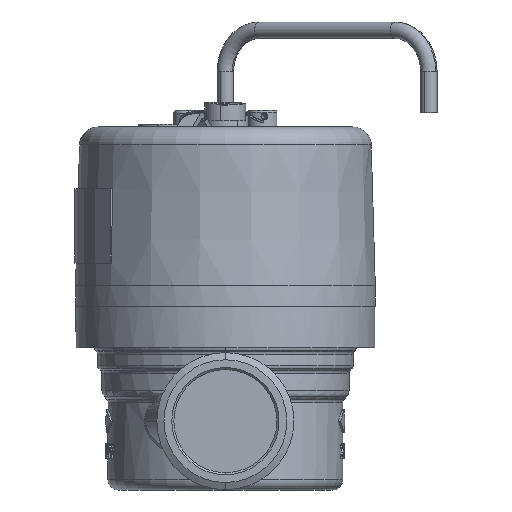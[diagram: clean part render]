
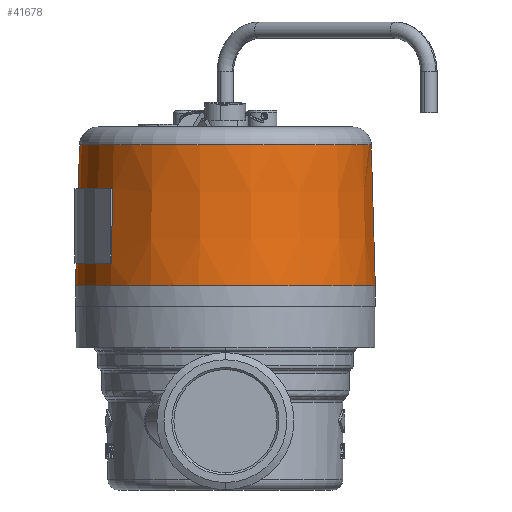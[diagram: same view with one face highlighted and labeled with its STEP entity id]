
A CAD part, left-side view. The second image highlights one B-rep face of the part: STEP entity #41678.
In plain terms, the highlighted conical face has half-angle 1.637 degrees and reference radius 36.35 mm.
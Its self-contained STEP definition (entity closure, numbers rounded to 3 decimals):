
#955 = EDGE_CURVE ( 'NONE', #18413, #52519, #67536, .T. ) ;
#1970 = DIRECTION ( 'NONE',  ( 0., 0.029, -1. ) ) ;
#3511 = VERTEX_POINT ( 'NONE', #70706 ) ;
#3924 = EDGE_CURVE ( 'NONE', #3511, #30460, #52470, .T. ) ;
#4159 = CARTESIAN_POINT ( 'NONE',  ( 0., 0., 32.871 ) ) ;
#4647 = CARTESIAN_POINT ( 'NONE',  ( 0., -36.35, 32.871 ) ) ;
#5201 = CARTESIAN_POINT ( 'NONE',  ( 0., 36.35, 32.871 ) ) ;
#6108 = ORIENTED_EDGE ( 'NONE', *, *, #70660, .T. ) ;
#8324 = CARTESIAN_POINT ( 'NONE',  ( 0., 0., 56.35 ) ) ;
#9046 = VECTOR ( 'NONE', #24745, 1000. ) ;
#9204 = DIRECTION ( 'NONE',  ( 0., 0., 1. ) ) ;
#9649 = DIRECTION ( 'NONE',  ( 0., -1., 0. ) ) ;
#10353 = ORIENTED_EDGE ( 'NONE', *, *, #955, .F. ) ;
#10826 = VECTOR ( 'NONE', #1970, 1000. ) ;
#15528 = DIRECTION ( 'NONE',  ( 0., 0., -1. ) ) ;
#16861 = EDGE_CURVE ( 'NONE', #41445, #24312, #33580, .T. ) ;
#16920 = AXIS2_PLACEMENT_3D ( 'NONE', #4159, #53587, #26470 ) ;
#18413 = VERTEX_POINT ( 'NONE', #68589 ) ;
#19682 = CARTESIAN_POINT ( 'NONE',  ( 0., 0., 38.35 ) ) ;
#19891 = AXIS2_PLACEMENT_3D ( 'NONE', #31224, #46813, #9649 ) ;
#20551 = CARTESIAN_POINT ( 'NONE',  ( -22.971, 27.3, 56.35 ) ) ;
#20575 = CARTESIAN_POINT ( 'NONE',  ( 0., 0., 66.979 ) ) ;
#23648 = CARTESIAN_POINT ( 'NONE',  ( 0., 36.35, 32.871 ) ) ;
#23706 = CIRCLE ( 'NONE', #42139, 35.679 ) ;
#24195 = DIRECTION ( 'NONE',  ( 0., 0., 1. ) ) ;
#24312 = VERTEX_POINT ( 'NONE', #68476 ) ;
#24745 = DIRECTION ( 'NONE',  ( 0., 0.029, -1. ) ) ;
#25436 = ORIENTED_EDGE ( 'NONE', *, *, #16861, .T. ) ;
#26470 = DIRECTION ( 'NONE',  ( 0., -1., 0. ) ) ;
#26596 = EDGE_CURVE ( 'NONE', #63943, #41445, #23706, .T. ) ;
#26986 = EDGE_LOOP ( 'NONE', ( #6108, #54782, #41131, #25436, #32834, #60930, #40486, #10353 ) ) ;
#27118 = AXIS2_PLACEMENT_3D ( 'NONE', #20575, #15528, #65656 ) ;
#30460 = VERTEX_POINT ( 'NONE', #5201 ) ;
#31224 = CARTESIAN_POINT ( 'NONE',  ( 0., 0., 32.871 ) ) ;
#31412 = CARTESIAN_POINT ( 'NONE',  ( 0., 35.375, 66.979 ) ) ;
#32834 = ORIENTED_EDGE ( 'NONE', *, *, #36467, .F. ) ;
#33580 = LINE ( 'NONE', #56044, #53250 ) ;
#34995 = CARTESIAN_POINT ( 'NONE',  ( 0., -36.35, 32.871 ) ) ;
#35112 = CARTESIAN_POINT ( 'NONE',  ( 0., 36.35, 32.871 ) ) ;
#36249 = DIRECTION ( 'NONE',  ( -1., 0., 0. ) ) ;
#36467 = EDGE_CURVE ( 'NONE', #3511, #24312, #66226, .T. ) ;
#38023 = VECTOR ( 'NONE', #51297, 1000. ) ;
#38308 = CONICAL_SURFACE ( 'NONE', #19891, 36.35, 0.029 ) ;
#40486 = ORIENTED_EDGE ( 'NONE', *, *, #62400, .F. ) ;
#41131 = ORIENTED_EDGE ( 'NONE', *, *, #26596, .T. ) ;
#41445 = VERTEX_POINT ( 'NONE', #20551 ) ;
#41678 = ADVANCED_FACE ( 'NONE', ( #42445 ), #38308, .T. ) ;
#42139 = AXIS2_PLACEMENT_3D ( 'NONE', #8324, #24195, #52350 ) ;
#42445 = FACE_OUTER_BOUND ( 'NONE', #26986, .T. ) ;
#44576 = CIRCLE ( 'NONE', #16920, 36.35 ) ;
#46813 = DIRECTION ( 'NONE',  ( 0., 0., -1. ) ) ;
#48988 = AXIS2_PLACEMENT_3D ( 'NONE', #19682, #9204, #36249 ) ;
#51297 = DIRECTION ( 'NONE',  ( 0., -0.029, -1. ) ) ;
#51371 = CIRCLE ( 'NONE', #27118, 35.375 ) ;
#52350 = DIRECTION ( 'NONE',  ( -1., 0., 0. ) ) ;
#52470 = LINE ( 'NONE', #35112, #10826 ) ;
#52519 = VERTEX_POINT ( 'NONE', #4647 ) ;
#53250 = VECTOR ( 'NONE', #66128, 1000. ) ;
#53587 = DIRECTION ( 'NONE',  ( 0., 0., -1. ) ) ;
#54782 = ORIENTED_EDGE ( 'NONE', *, *, #63098, .T. ) ;
#56044 = CARTESIAN_POINT ( 'NONE',  ( 0., 0., 1304.413 ) ) ;
#57579 = LINE ( 'NONE', #23648, #9046 ) ;
#60930 = ORIENTED_EDGE ( 'NONE', *, *, #3924, .T. ) ;
#62400 = EDGE_CURVE ( 'NONE', #52519, #30460, #44576, .T. ) ;
#63098 = EDGE_CURVE ( 'NONE', #69676, #63943, #57579, .T. ) ;
#63210 = CARTESIAN_POINT ( 'NONE',  ( 0., 35.679, 56.35 ) ) ;
#63943 = VERTEX_POINT ( 'NONE', #63210 ) ;
#65656 = DIRECTION ( 'NONE',  ( 0., -1., 0. ) ) ;
#66128 = DIRECTION ( 'NONE',  ( -0.018, 0.022, -1. ) ) ;
#66226 = CIRCLE ( 'NONE', #48988, 36.193 ) ;
#67536 = LINE ( 'NONE', #34995, #38023 ) ;
#68476 = CARTESIAN_POINT ( 'NONE',  ( -23.303, 27.694, 38.35 ) ) ;
#68589 = CARTESIAN_POINT ( 'NONE',  ( 0., -35.375, 66.979 ) ) ;
#69676 = VERTEX_POINT ( 'NONE', #31412 ) ;
#70660 = EDGE_CURVE ( 'NONE', #18413, #69676, #51371, .T. ) ;
#70706 = CARTESIAN_POINT ( 'NONE',  ( 0., 36.193, 38.35 ) ) ;
